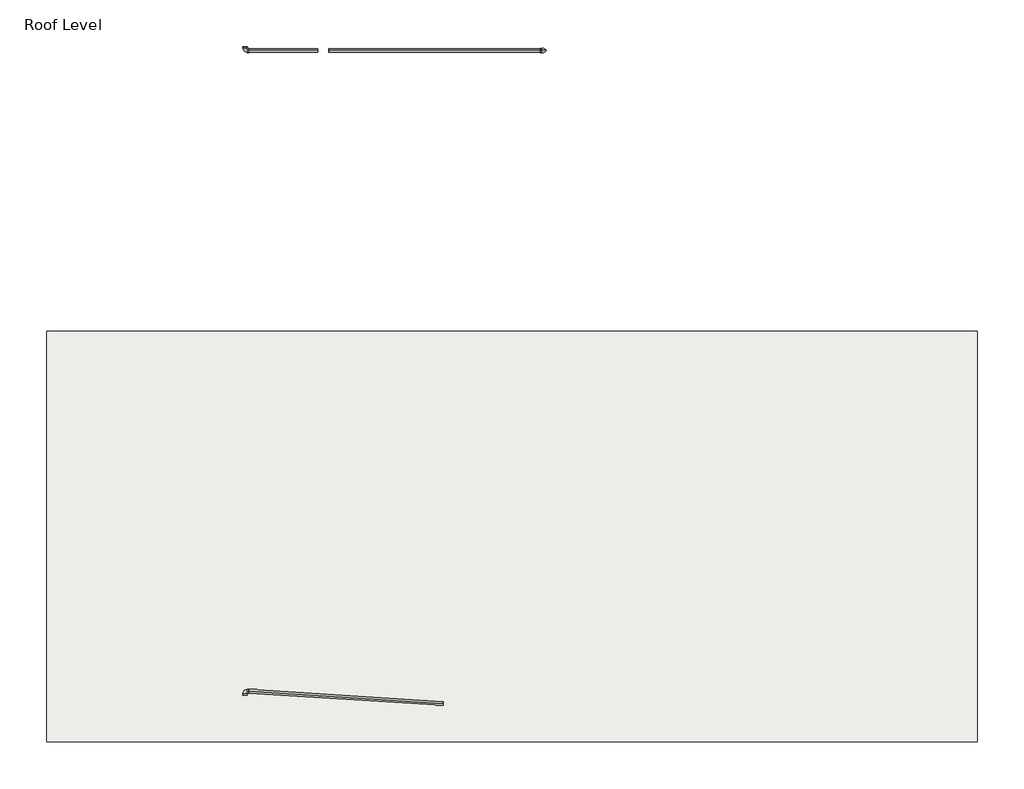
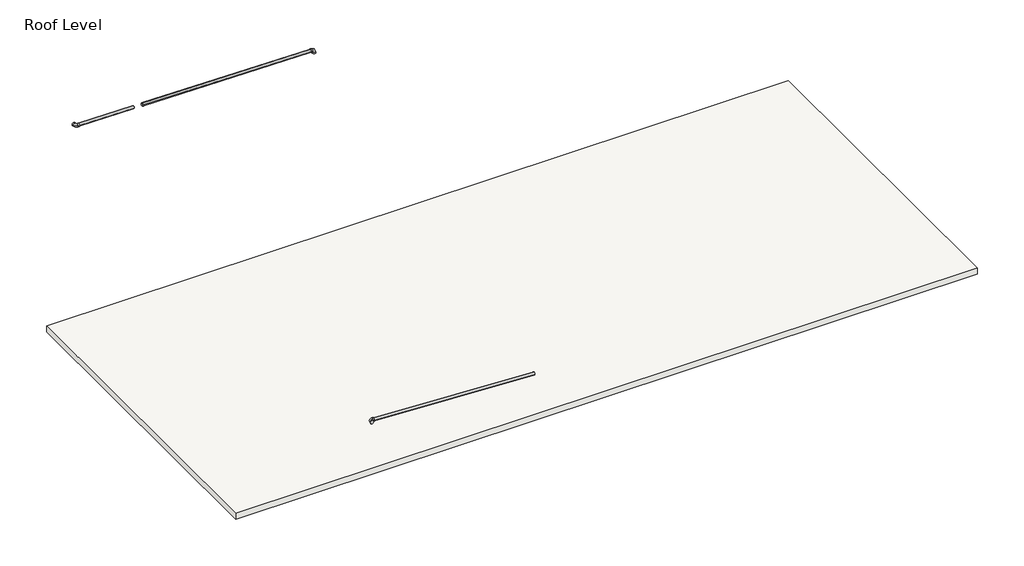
# One storey, incomplete: 3 pipe fittings, 3 pipe segments, 1 roof.
"""IFC4 building model written with IfcOpenShell, lengths in millimetres."""

from ifc_helpers import new_model, si_unit, point, frame, frame_2d, origin, place, context, project, spatial, polyline, circle_curve, trimmed, segment, composite_curve, outline, extrude, transform, mapped, element, save
from components import elbow_threaded_ms_standard_96f3d6e5, elbow_threaded_ms_standard_8504ba8a

model = new_model("IFC4")

# Units and contexts
model_context = context("Model", 3, world=origin())
ifc_project = project(units=[si_unit("LENGTHUNIT", "METRE", prefix="MILLI")], contexts=[model_context])

# Site, building, storey
site = spatial("IfcSite", under=ifc_project)
building = spatial("IfcBuilding", under=site)
storey = spatial("IfcBuildingStorey", under=building, Name="Roof Level", Elevation=12000.0)

# Pipe fittings
placement = place(None, origin())
elbow_threaded_ms_standard_shape = elbow_threaded_ms_standard_96f3d6e5(model_context)
element("IfcPipeFitting", 1, ObjectType="Elbow - Threaded - MS : Standard", at=placement, inside=storey, context=model_context, shape_type="MappedRepresentation", body=[
    mapped(elbow_threaded_ms_standard_shape, transform((-3065.8166812, -3992.110268, 12209.2530163), x_axis=(-0.9999218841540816, 0.0, -0.01249902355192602), y_axis=(0.00015621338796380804, -0.999921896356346, -0.012497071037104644), z_axis=(-0.012498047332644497, -0.012498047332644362, 0.9998437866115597))),
])
element("IfcPipeFitting", 2, ObjectType="Elbow - Threaded - MS : Standard", at=placement, inside=storey, context=model_context, shape_type="MappedRepresentation", body=[
    mapped(elbow_threaded_ms_standard_shape, transform((-3065.8166812, 6478.1193, 12250.1308859), x_axis=(0.0, -0.9999218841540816, -0.012499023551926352), y_axis=(0.999921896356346, 0.0001562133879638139, -0.012497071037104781), z_axis=(0.012498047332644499, -0.012498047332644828, 0.9998437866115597))),
])
elbow_threaded_ms_standard_2_shape = elbow_threaded_ms_standard_8504ba8a(model_context)
element("IfcPipeFitting", 3, ObjectType="Elbow - Threaded - MS : Standard", at=placement, inside=storey, context=model_context, shape_type="MappedRepresentation", body=[
    mapped(elbow_threaded_ms_standard_2_shape, transform((1819.6575952, 6478.1193, 12189.0624574), x_axis=(0.9999218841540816, 0.0, -0.012499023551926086), y_axis=(-0.012499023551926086, 0.0, -0.9999218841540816), z_axis=(0.0, 1.0, 0.0))),
])

# Pipe segments
element("IfcPipeSegment", 4, ObjectType="Carbon Steel", at=placement, inside=storey, context=model_context, shape_type="SweptSolid", body=[
    extrude(outline(composite_curve([segment(trimmed(circle_curve(frame_2d((0.0, -30.1625)), 30.1625), [point((30.1492213, -29.2675918))], [point((0.8949081, -60.3117213))], False, "CARTESIAN"), True, "CONTINUOUS"), segment(trimmed(circle_curve(frame_2d((0.0, -30.1625)), 30.1625), [point((0.8949081, -60.3117213))], [point((-30.1492214, -31.0574081))], False, "CARTESIAN"), True, "CONTINUOUS"), segment(trimmed(circle_curve(frame_2d((0.0, -30.1625)), 30.1625), [point((-30.1492214, -31.0574081))], [point((-0.8949081, -0.0132787))], False, "CARTESIAN"), True, "CONTINUOUS"), segment(trimmed(circle_curve(frame_2d((0.0, -30.1625)), 30.1625), [point((-0.8949081, -0.0132787))], [point((30.1492213, -29.2675918))], False, "CARTESIAN"), True, "CONTINUOUS")], self_intersect=False)), frame((-3001.9216728, -3991.2135871, 12240.2008725), z_axis=(0.9980212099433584, -0.06285038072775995, 0.0018692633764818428), x_axis=(0.06287817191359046, 0.9975800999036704, -0.02966950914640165)), (0.0, 0.0, 1.0), 3182.1605165),
])
element("IfcPipeSegment", 5, ObjectType="Carbon Steel", at=placement, inside=storey, context=model_context, shape_type="SweptSolid", body=[
    extrude(outline(composite_curve([segment(trimmed(circle_curve(frame_2d((0.0, -30.1625)), 30.1625), [point((0.0, -60.325))], [point((-30.1625, -30.1625))], False, "CARTESIAN"), True, "CONTINUOUS"), segment(trimmed(circle_curve(frame_2d((0.0, -30.1625)), 30.1625), [point((-30.1625, -30.1625))], [point((0.0, 0.0))], False, "CARTESIAN"), True, "CONTINUOUS"), segment(trimmed(circle_curve(frame_2d((0.0, -30.1625)), 30.1625), [point((0.0, 0.0))], [point((30.1625001, -30.1625))], False, "CARTESIAN"), True, "CONTINUOUS"), segment(trimmed(circle_curve(frame_2d((0.0, -30.1625)), 30.1625), [point((30.1625001, -30.1625))], [point((0.0, -60.325))], False, "CARTESIAN"), True, "CONTINUOUS")], self_intersect=False)), frame((1755.7625868, 6508.2818, 12189.861145), z_axis=(-0.9999218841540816, 0.0, 0.012499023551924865), x_axis=(0.012499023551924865, 0.0, 0.9999218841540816)), (0.0, 0.0, 1.0), 3456.4767718),
])
element("IfcPipeSegment", 6, ObjectType="Carbon Steel", at=placement, inside=storey, context=model_context, shape_type="SweptSolid", body=[
    extrude(outline(composite_curve([segment(trimmed(circle_curve(frame_2d((0.0, -30.1625)), 30.1625), [point((0.0, -60.325))], [point((-30.1625, -30.1625))], False, "CARTESIAN"), True, "CONTINUOUS"), segment(trimmed(circle_curve(frame_2d((0.0, -30.1625)), 30.1625), [point((-30.1625, -30.1625))], [point((0.0, 0.0))], False, "CARTESIAN"), True, "CONTINUOUS"), segment(trimmed(circle_curve(frame_2d((0.0, -30.1625)), 30.1625), [point((0.0, 0.0))], [point((30.1625, -30.1625))], False, "CARTESIAN"), True, "CONTINUOUS"), segment(trimmed(circle_curve(frame_2d((0.0, -30.1625)), 30.1625), [point((30.1625, -30.1625))], [point((0.0, -60.325))], False, "CARTESIAN"), True, "CONTINUOUS")], self_intersect=False)), frame((-1878.4302747, 6508.2818, 12235.2885558), z_axis=(-0.9999218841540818, 0.0, 0.01249902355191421), x_axis=(0.01249902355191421, 0.0, 0.9999218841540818)), (0.0, 0.0, 1.0), 1123.5791674),
])

# Roof
element("IfcRoof", 7, ObjectType="Generic - 125mm", at=placement, inside=storey, context=model_context, shape_type="SweptSolid", body=[
    extrude(outline(polyline([(-6308.0198612, 1889.6075821), (8901.9801388, 1889.6075821), (8901.9801388, -4820.3924179), (-6308.0198612, -4820.3924179), (-6308.0198612, 1889.6075821)])), frame((0.0, 0.0, 11700.0), z_axis=(0.0, 0.0, 1.0), x_axis=(1.0, 0.0, 0.0)), (0.0, 0.0, 1.0), 125.0),
])

save(model, "model.ifc")
